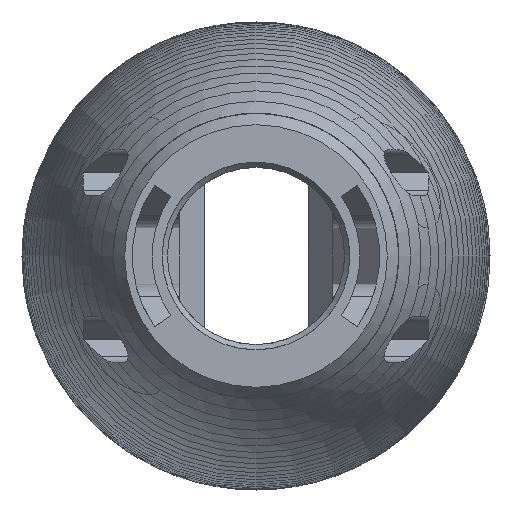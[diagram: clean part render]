
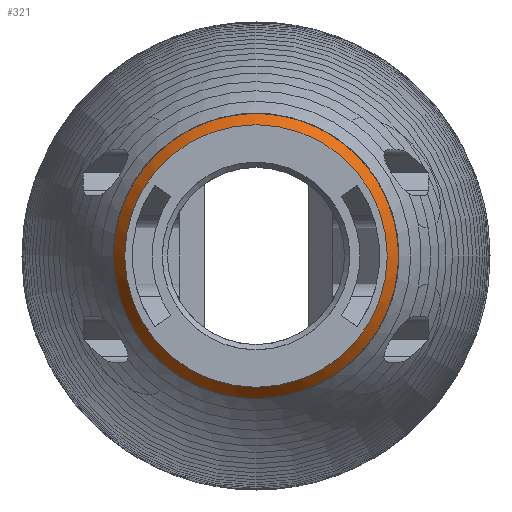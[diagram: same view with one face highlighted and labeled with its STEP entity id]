
A CAD part, left-side view. The second image highlights one B-rep face of the part: STEP entity #321.
In plain terms, the highlighted conical face has half-angle 33.567 degrees and reference radius 12.628 mm.
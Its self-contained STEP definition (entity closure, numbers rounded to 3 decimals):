
#32 = PLANE('',#33);
#33 = AXIS2_PLACEMENT_3D('',#34,#35,#36);
#34 = CARTESIAN_POINT('',(8.1,-30.,-30.));
#35 = DIRECTION('',(1.,0.,-0.));
#36 = DIRECTION('',(0.,0.,1.));
#289 = EDGE_CURVE('',#290,#290,#292,.T.);
#290 = VERTEX_POINT('',#291);
#291 = CARTESIAN_POINT('',(8.1,12.628,0.));
#292 = SURFACE_CURVE('',#293,(#298,#309),.PCURVE_S1.);
#293 = CIRCLE('',#294,12.628);
#294 = AXIS2_PLACEMENT_3D('',#295,#296,#297);
#295 = CARTESIAN_POINT('',(8.1,0.,0.));
#296 = DIRECTION('',(-1.,0.,0.));
#297 = DIRECTION('',(0.,1.,0.));
#298 = PCURVE('',#32,#299);
#299 = DEFINITIONAL_REPRESENTATION('',(#300),#308);
#300 = ( BOUNDED_CURVE() B_SPLINE_CURVE(2,(#301,#302,#303,#304,#305,#306
,#307),.UNSPECIFIED.,.T.,.F.) B_SPLINE_CURVE_WITH_KNOTS((1,2,2,2,2,1),(
    -2.094,0.,2.094,4.189,6.283,
8.378),.UNSPECIFIED.) CURVE() GEOMETRIC_REPRESENTATION_ITEM() 
RATIONAL_B_SPLINE_CURVE((1.,0.5,1.,0.5,1.,0.5,1.)) REPRESENTATION_ITEM(
  '') );
#301 = CARTESIAN_POINT('',(30.,-42.628));
#302 = CARTESIAN_POINT('',(8.128,-42.628));
#303 = CARTESIAN_POINT('',(19.064,-23.686));
#304 = CARTESIAN_POINT('',(30.,-4.745));
#305 = CARTESIAN_POINT('',(40.936,-23.686));
#306 = CARTESIAN_POINT('',(51.872,-42.628));
#307 = CARTESIAN_POINT('',(30.,-42.628));
#308 = ( GEOMETRIC_REPRESENTATION_CONTEXT(2) 
PARAMETRIC_REPRESENTATION_CONTEXT() REPRESENTATION_CONTEXT('2D SPACE',''
  ) );
#309 = PCURVE('',#310,#315);
#310 = CONICAL_SURFACE('',#311,12.628,0.586);
#311 = AXIS2_PLACEMENT_3D('',#312,#313,#314);
#312 = CARTESIAN_POINT('',(8.1,0.,0.));
#313 = DIRECTION('',(1.,0.,0.));
#314 = DIRECTION('',(-0.,1.,0.));
#315 = DEFINITIONAL_REPRESENTATION('',(#316),#320);
#316 = LINE('',#317,#318);
#317 = CARTESIAN_POINT('',(6.283,0.));
#318 = VECTOR('',#319,1.);
#319 = DIRECTION('',(-1.,-0.));
#320 = ( GEOMETRIC_REPRESENTATION_CONTEXT(2) 
PARAMETRIC_REPRESENTATION_CONTEXT() REPRESENTATION_CONTEXT('2D SPACE',''
  ) );
#321 = ADVANCED_FACE('',(#322),#310,.T.);
#322 = FACE_BOUND('',#323,.T.);
#323 = EDGE_LOOP('',(#324,#347,#348,#349));
#324 = ORIENTED_EDGE('',*,*,#325,.F.);
#325 = EDGE_CURVE('',#290,#326,#328,.T.);
#326 = VERTEX_POINT('',#327);
#327 = CARTESIAN_POINT('',(9.7,13.689,0.));
#328 = SEAM_CURVE('',#329,(#333,#340),.PCURVE_S1.);
#329 = LINE('',#330,#331);
#330 = CARTESIAN_POINT('',(8.1,12.628,0.));
#331 = VECTOR('',#332,1.);
#332 = DIRECTION('',(0.833,0.553,0.));
#333 = PCURVE('',#310,#334);
#334 = DEFINITIONAL_REPRESENTATION('',(#335),#339);
#335 = LINE('',#336,#337);
#336 = CARTESIAN_POINT('',(0.,0.));
#337 = VECTOR('',#338,1.);
#338 = DIRECTION('',(0.,1.));
#339 = ( GEOMETRIC_REPRESENTATION_CONTEXT(2) 
PARAMETRIC_REPRESENTATION_CONTEXT() REPRESENTATION_CONTEXT('2D SPACE',''
  ) );
#340 = PCURVE('',#310,#341);
#341 = DEFINITIONAL_REPRESENTATION('',(#342),#346);
#342 = LINE('',#343,#344);
#343 = CARTESIAN_POINT('',(6.283,0.));
#344 = VECTOR('',#345,1.);
#345 = DIRECTION('',(0.,1.));
#346 = ( GEOMETRIC_REPRESENTATION_CONTEXT(2) 
PARAMETRIC_REPRESENTATION_CONTEXT() REPRESENTATION_CONTEXT('2D SPACE',''
  ) );
#347 = ORIENTED_EDGE('',*,*,#289,.F.);
#348 = ORIENTED_EDGE('',*,*,#325,.T.);
#349 = ORIENTED_EDGE('',*,*,#350,.F.);
#350 = EDGE_CURVE('',#326,#326,#351,.T.);
#351 = SURFACE_CURVE('',#352,(#357,#364),.PCURVE_S1.);
#352 = CIRCLE('',#353,13.689);
#353 = AXIS2_PLACEMENT_3D('',#354,#355,#356);
#354 = CARTESIAN_POINT('',(9.7,0.,0.));
#355 = DIRECTION('',(1.,0.,0.));
#356 = DIRECTION('',(-0.,1.,0.));
#357 = PCURVE('',#310,#358);
#358 = DEFINITIONAL_REPRESENTATION('',(#359),#363);
#359 = LINE('',#360,#361);
#360 = CARTESIAN_POINT('',(0.,1.6));
#361 = VECTOR('',#362,1.);
#362 = DIRECTION('',(1.,0.));
#363 = ( GEOMETRIC_REPRESENTATION_CONTEXT(2) 
PARAMETRIC_REPRESENTATION_CONTEXT() REPRESENTATION_CONTEXT('2D SPACE',''
  ) );
#364 = PCURVE('',#365,#370);
#365 = PLANE('',#366);
#366 = AXIS2_PLACEMENT_3D('',#367,#368,#369);
#367 = CARTESIAN_POINT('',(9.7,0.,0.));
#368 = DIRECTION('',(1.,0.,0.));
#369 = DIRECTION('',(-0.,1.,0.));
#370 = DEFINITIONAL_REPRESENTATION('',(#371),#375);
#371 = CIRCLE('',#372,13.689);
#372 = AXIS2_PLACEMENT_2D('',#373,#374);
#373 = CARTESIAN_POINT('',(0.,0.));
#374 = DIRECTION('',(1.,0.));
#375 = ( GEOMETRIC_REPRESENTATION_CONTEXT(2) 
PARAMETRIC_REPRESENTATION_CONTEXT() REPRESENTATION_CONTEXT('2D SPACE',''
  ) );
